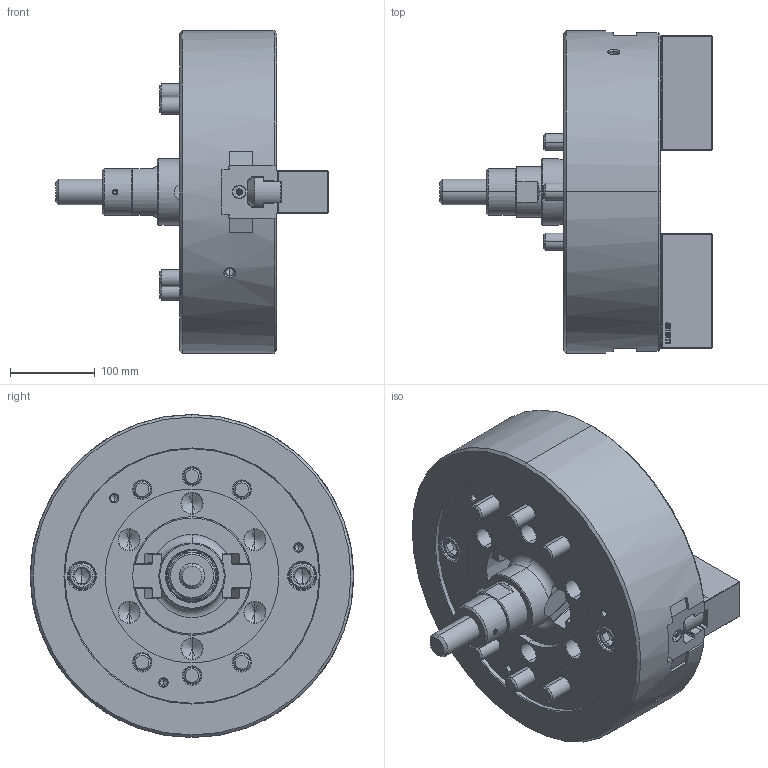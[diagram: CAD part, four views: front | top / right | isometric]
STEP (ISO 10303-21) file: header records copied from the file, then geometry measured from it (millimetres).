
FILE_DESCRIPTION (( 'STEP AP214' ), '1' );
FILE_NAME ('DT1_NT15_OUTSIDE_VIEW_HOL.STEP', '2026-03-23T23:34:11', ( '' ), ( '' ), 'SwSTEP 2.0', 'SolidWorks 2022', '' );
FILE_SCHEMA (( 'AUTOMOTIVE_DESIGN' ));
Length unit declared in the file: millimetre
Products named in the file (11): DT1_NT15_M6x12^DT1_NT15; DT1_NT15_M20x55^DT1_NT15; DT1_NT15_OUTSIDE_VIEW_HOL; DT1_NT15_DN^DT1_NT15; Copy of 61P321208^DT1_NT15; DT1_NT15_COVER^DT1_NT15; DT1_NT15_TNUT^DT1_NT15; DT1_NT15_SOFTJAW^DT1_NT15; DT1_NT15_BASE^DT1_NT15; DT1_NT15_DRAWSCREW^DT1_NT15; DT1_NT15_M20x115^DT1_NT15
Assembly tree (25 placements, depth 2):
  DT1_NT15_OUTSIDE_VIEW_HOL
    DT1_NT15_SOFTJAW^DT1_NT15  x2
    DT1_NT15_TNUT^DT1_NT15  x4
    DT1_NT15_COVER^DT1_NT15
    DT1_NT15_DRAWSCREW^DT1_NT15
    Copy of 61P321208^DT1_NT15
    DT1_NT15_DN^DT1_NT15
    DT1_NT15_BASE^DT1_NT15
    DT1_NT15_M6x12^DT1_NT15  x4
    DT1_NT15_M20x55^DT1_NT15  x4
    DT1_NT15_M20x115^DT1_NT15  x6
Bounding box: 321.44 x 381 x 381 mm (x, y, z)
Volume: 13125448.1 mm3; surface area: 876254.3 mm2
Topology: 25 solids, 25 shells, 4885 faces, 13925 edges, 9115 vertices
Faces by surface type: plane 2953, cylinder 1324, cone 385, bspline 179, torus 40, sphere 4
Entity records: 120921 total; most frequent: CARTESIAN_POINT 33255, ORIENTED_EDGE 20098, DIRECTION 15620, EDGE_CURVE 10049, LINE 7240, VECTOR 7240, VERTEX_POINT 6600, AXIS2_PLACEMENT_3D 4190
